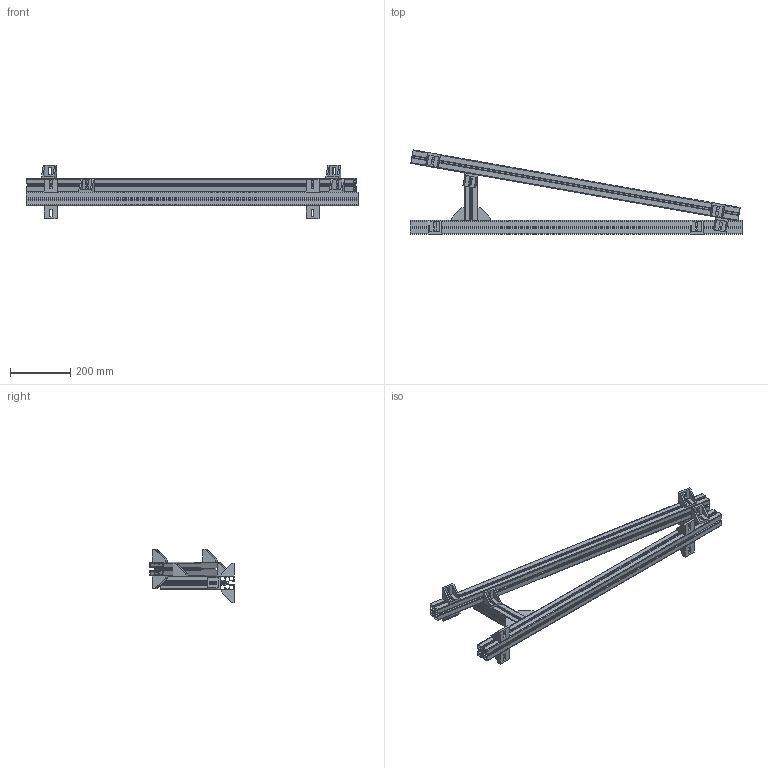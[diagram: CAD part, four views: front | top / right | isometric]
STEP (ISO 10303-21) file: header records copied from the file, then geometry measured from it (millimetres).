
FILE_DESCRIPTION (( 'STEP AP203' ), '1' );
FILE_NAME ('084.106.308.STEP', '2015-05-20T11:39:25', ( '' ), ( '' ), 'SwSTEP 2.0', 'SolidWorks 2012', '' );
FILE_SCHEMA (( 'CONFIG_CONTROL_DESIGN' ));
Length unit declared in the file: millimetre
Products named in the file (1): 084.106.308
Bounding box: 1100 x 278.81 x 176 mm (x, y, z)
Volume: 1380285.7 mm3; surface area: 1607586.5 mm2
Topology: 15 solids, 15 shells, 683 faces, 1902 edges, 1248 vertices
Faces by surface type: plane 481, cylinder 202
Entity records: 21970 total; most frequent: CARTESIAN_POINT 3973, ORIENTED_EDGE 3804, DIRECTION 3612, EDGE_CURVE 1902, VECTOR 1502, LINE 1502, VERTEX_POINT 1248, AXIS2_PLACEMENT_3D 1055
